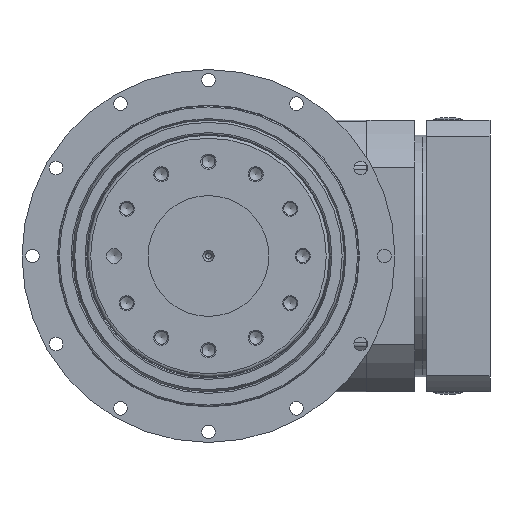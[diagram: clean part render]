
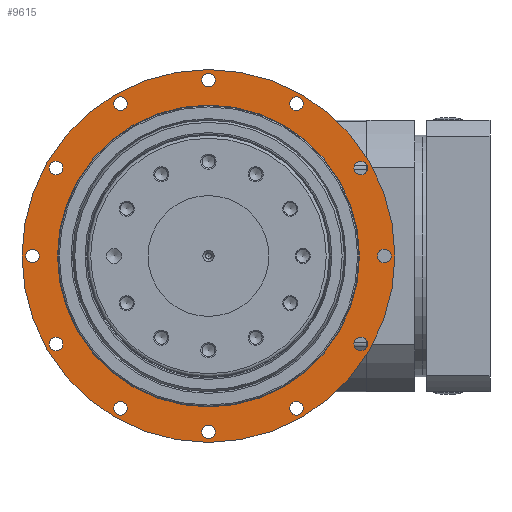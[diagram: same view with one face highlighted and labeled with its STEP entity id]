
A CAD part, left-side view. The second image highlights one B-rep face of the part: STEP entity #9615.
In plain terms, the highlighted planar face has unit normal (-1, 0, 0).
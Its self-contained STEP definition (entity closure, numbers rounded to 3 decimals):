
#245 = AXIS2_PLACEMENT_3D ( 'NONE', #5189, #20973, #22750 ) ;
#371 = VERTEX_POINT ( 'NONE', #9021 ) ;
#479 = CARTESIAN_POINT ( 'NONE',  ( -58., 0., 123.5 ) ) ;
#1023 = ORIENTED_EDGE ( 'NONE', *, *, #7770, .F. ) ;
#1049 = FACE_BOUND ( 'NONE', #13612, .T. ) ;
#1051 = EDGE_LOOP ( 'NONE', ( #10791 ) ) ;
#1076 = AXIS2_PLACEMENT_3D ( 'NONE', #19255, #12554, #17137 ) ;
#1092 = EDGE_LOOP ( 'NONE', ( #12295 ) ) ;
#1203 = PLANE ( 'NONE',  #13372 ) ;
#1274 = EDGE_LOOP ( 'NONE', ( #22015 ) ) ;
#1438 = DIRECTION ( 'NONE',  ( -1., 0., 0. ) ) ;
#1485 = VERTEX_POINT ( 'NONE', #19785 ) ;
#1935 = CARTESIAN_POINT ( 'NONE',  ( -58., 116.5, 0. ) ) ;
#1953 = CARTESIAN_POINT ( 'NONE',  ( -58., -116.5, 0. ) ) ;
#2323 = VERTEX_POINT ( 'NONE', #22870 ) ;
#2392 = DIRECTION ( 'NONE',  ( 0., -1., 0. ) ) ;
#2742 = CIRCLE ( 'NONE', #15731, 4.5 ) ;
#2880 = EDGE_CURVE ( 'NONE', #5698, #5698, #22611, .T. ) ;
#3386 = DIRECTION ( 'NONE',  ( 0., -1., 0. ) ) ;
#3391 = EDGE_CURVE ( 'NONE', #19996, #19996, #16540, .T. ) ;
#3605 = DIRECTION ( 'NONE',  ( 0., -1., 0. ) ) ;
#3839 = DIRECTION ( 'NONE',  ( 0., 0., 1. ) ) ;
#4526 = VERTEX_POINT ( 'NONE', #6008 ) ;
#4543 = VERTEX_POINT ( 'NONE', #479 ) ;
#4879 = EDGE_LOOP ( 'NONE', ( #18683 ) ) ;
#4931 = ORIENTED_EDGE ( 'NONE', *, *, #15027, .T. ) ;
#5000 = CARTESIAN_POINT ( 'NONE',  ( -58., 0., 0. ) ) ;
#5052 = AXIS2_PLACEMENT_3D ( 'NONE', #11062, #16527, #2392 ) ;
#5108 = EDGE_LOOP ( 'NONE', ( #10560 ) ) ;
#5189 = CARTESIAN_POINT ( 'NONE',  ( -58., 58.25, 100.892 ) ) ;
#5326 = ORIENTED_EDGE ( 'NONE', *, *, #7556, .F. ) ;
#5656 = VERTEX_POINT ( 'NONE', #18541 ) ;
#5690 = CIRCLE ( 'NONE', #14752, 123.5 ) ;
#5698 = VERTEX_POINT ( 'NONE', #12090 ) ;
#5804 = FACE_BOUND ( 'NONE', #7240, .T. ) ;
#5886 = CARTESIAN_POINT ( 'NONE',  ( -58., -100.892, 58.25 ) ) ;
#6008 = CARTESIAN_POINT ( 'NONE',  ( -58., -4.5, -116.5 ) ) ;
#6233 = VERTEX_POINT ( 'NONE', #19481 ) ;
#6529 = VERTEX_POINT ( 'NONE', #19404 ) ;
#6667 = CIRCLE ( 'NONE', #16997, 4.5 ) ;
#6736 = ORIENTED_EDGE ( 'NONE', *, *, #2880, .F. ) ;
#7139 = CIRCLE ( 'NONE', #18257, 4.5 ) ;
#7166 = DIRECTION ( 'NONE',  ( 0., -1., 0. ) ) ;
#7240 = EDGE_LOOP ( 'NONE', ( #14067 ) ) ;
#7309 = DIRECTION ( 'NONE',  ( -1., 0., 0. ) ) ;
#7400 = CARTESIAN_POINT ( 'NONE',  ( -58., 100.892, 58.25 ) ) ;
#7482 = FACE_BOUND ( 'NONE', #16304, .T. ) ;
#7556 = EDGE_CURVE ( 'NONE', #2323, #2323, #6667, .T. ) ;
#7725 = DIRECTION ( 'NONE',  ( -1., 0., 0. ) ) ;
#7770 = EDGE_CURVE ( 'NONE', #6529, #6529, #18487, .T. ) ;
#7802 = EDGE_LOOP ( 'NONE', ( #18085 ) ) ;
#8154 = EDGE_LOOP ( 'NONE', ( #5326 ) ) ;
#8172 = EDGE_CURVE ( 'NONE', #371, #371, #9670, .T. ) ;
#8247 = EDGE_CURVE ( 'NONE', #22747, #22747, #19300, .T. ) ;
#8377 = EDGE_CURVE ( 'NONE', #6233, #6233, #22890, .T. ) ;
#8635 = CARTESIAN_POINT ( 'NONE',  ( -58., 58.25, -100.892 ) ) ;
#8820 = FACE_BOUND ( 'NONE', #22781, .T. ) ;
#8972 = DIRECTION ( 'NONE',  ( 0., -1., 0. ) ) ;
#9021 = CARTESIAN_POINT ( 'NONE',  ( -58., -121., 0. ) ) ;
#9046 = DIRECTION ( 'NONE',  ( -1., 0., 0. ) ) ;
#9262 = VERTEX_POINT ( 'NONE', #11077 ) ;
#9322 = CARTESIAN_POINT ( 'NONE',  ( -58., -105.392, 58.25 ) ) ;
#9332 = EDGE_CURVE ( 'NONE', #18909, #18909, #2742, .T. ) ;
#9615 = ADVANCED_FACE ( 'NONE', ( #1049, #14052, #16826, #15162, #5804, #13503, #8820, #12146, #7482, #12404, #17917, #10492, #13249, #19860 ), #1203, .F. ) ;
#9670 = CIRCLE ( 'NONE', #16859, 4.5 ) ;
#10038 = CARTESIAN_POINT ( 'NONE',  ( -58., -58.25, 100.892 ) ) ;
#10492 = FACE_BOUND ( 'NONE', #16871, .T. ) ;
#10560 = ORIENTED_EDGE ( 'NONE', *, *, #22379, .F. ) ;
#10645 = CIRCLE ( 'NONE', #22710, 4.5 ) ;
#10791 = ORIENTED_EDGE ( 'NONE', *, *, #8377, .F. ) ;
#10826 = AXIS2_PLACEMENT_3D ( 'NONE', #18235, #10923, #3839 ) ;
#10923 = DIRECTION ( 'NONE',  ( -1., 0., 0. ) ) ;
#11062 = CARTESIAN_POINT ( 'NONE',  ( -58., 0., 116.5 ) ) ;
#11077 = CARTESIAN_POINT ( 'NONE',  ( -58., 53.75, -100.892 ) ) ;
#11171 = EDGE_CURVE ( 'NONE', #1485, #1485, #17600, .T. ) ;
#11439 = ORIENTED_EDGE ( 'NONE', *, *, #19998, .F. ) ;
#11710 = AXIS2_PLACEMENT_3D ( 'NONE', #10038, #20337, #22350 ) ;
#12090 = CARTESIAN_POINT ( 'NONE',  ( -58., 112., 0. ) ) ;
#12146 = FACE_BOUND ( 'NONE', #19491, .T. ) ;
#12161 = CARTESIAN_POINT ( 'NONE',  ( -58., 0., 100. ) ) ;
#12295 = ORIENTED_EDGE ( 'NONE', *, *, #14994, .F. ) ;
#12303 = AXIS2_PLACEMENT_3D ( 'NONE', #13962, #1438, #3386 ) ;
#12404 = FACE_BOUND ( 'NONE', #1274, .T. ) ;
#12484 = EDGE_CURVE ( 'NONE', #16681, #16681, #7139, .T. ) ;
#12554 = DIRECTION ( 'NONE',  ( -1., 0., 0. ) ) ;
#12564 = DIRECTION ( 'NONE',  ( 0., -1., 0. ) ) ;
#12699 = DIRECTION ( 'NONE',  ( -1., 0., 0. ) ) ;
#13249 = FACE_BOUND ( 'NONE', #4879, .T. ) ;
#13333 = AXIS2_PLACEMENT_3D ( 'NONE', #7400, #12699, #21636 ) ;
#13372 = AXIS2_PLACEMENT_3D ( 'NONE', #17338, #17256, #20801 ) ;
#13503 = FACE_BOUND ( 'NONE', #7802, .T. ) ;
#13612 = EDGE_LOOP ( 'NONE', ( #13728 ) ) ;
#13728 = ORIENTED_EDGE ( 'NONE', *, *, #9332, .F. ) ;
#13962 = CARTESIAN_POINT ( 'NONE',  ( -58., 0., -116.5 ) ) ;
#14015 = DIRECTION ( 'NONE',  ( 0., -1., 0. ) ) ;
#14018 = CARTESIAN_POINT ( 'NONE',  ( -58., 96.392, -58.25 ) ) ;
#14052 = FACE_BOUND ( 'NONE', #1092, .T. ) ;
#14067 = ORIENTED_EDGE ( 'NONE', *, *, #11171, .F. ) ;
#14332 = DIRECTION ( 'NONE',  ( -1., 0., 0. ) ) ;
#14752 = AXIS2_PLACEMENT_3D ( 'NONE', #5000, #15784, #17325 ) ;
#14994 = EDGE_CURVE ( 'NONE', #9262, #9262, #10645, .T. ) ;
#15027 = EDGE_CURVE ( 'NONE', #4543, #4543, #5690, .T. ) ;
#15089 = EDGE_LOOP ( 'NONE', ( #4931 ) ) ;
#15162 = FACE_BOUND ( 'NONE', #8154, .T. ) ;
#15681 = CIRCLE ( 'NONE', #5052, 4.5 ) ;
#15731 = AXIS2_PLACEMENT_3D ( 'NONE', #16035, #9046, #12564 ) ;
#15784 = DIRECTION ( 'NONE',  ( -1., 0., 0. ) ) ;
#16035 = CARTESIAN_POINT ( 'NONE',  ( -58., 100.892, -58.25 ) ) ;
#16304 = EDGE_LOOP ( 'NONE', ( #11439 ) ) ;
#16527 = DIRECTION ( 'NONE',  ( -1., 0., 0. ) ) ;
#16540 = CIRCLE ( 'NONE', #245, 4.5 ) ;
#16681 = VERTEX_POINT ( 'NONE', #9322 ) ;
#16826 = FACE_BOUND ( 'NONE', #5108, .T. ) ;
#16859 = AXIS2_PLACEMENT_3D ( 'NONE', #1953, #14332, #3605 ) ;
#16871 = EDGE_LOOP ( 'NONE', ( #6736 ) ) ;
#16997 = AXIS2_PLACEMENT_3D ( 'NONE', #22744, #17732, #8972 ) ;
#17137 = DIRECTION ( 'NONE',  ( 0., -1., 0. ) ) ;
#17256 = DIRECTION ( 'NONE',  ( 1., 0., 0. ) ) ;
#17325 = DIRECTION ( 'NONE',  ( 0., 0., 1. ) ) ;
#17338 = CARTESIAN_POINT ( 'NONE',  ( -58., 123.5, 0. ) ) ;
#17600 = CIRCLE ( 'NONE', #1076, 4.5 ) ;
#17732 = DIRECTION ( 'NONE',  ( -1., 0., 0. ) ) ;
#17782 = CARTESIAN_POINT ( 'NONE',  ( -58., 53.75, 100.892 ) ) ;
#17917 = FACE_BOUND ( 'NONE', #1051, .T. ) ;
#18085 = ORIENTED_EDGE ( 'NONE', *, *, #8172, .F. ) ;
#18235 = CARTESIAN_POINT ( 'NONE',  ( -58., 0., 0. ) ) ;
#18257 = AXIS2_PLACEMENT_3D ( 'NONE', #5886, #7725, #20176 ) ;
#18283 = ORIENTED_EDGE ( 'NONE', *, *, #12484, .F. ) ;
#18487 = CIRCLE ( 'NONE', #11710, 4.5 ) ;
#18541 = CARTESIAN_POINT ( 'NONE',  ( -58., -4.5, 116.5 ) ) ;
#18657 = CIRCLE ( 'NONE', #12303, 4.5 ) ;
#18683 = ORIENTED_EDGE ( 'NONE', *, *, #8247, .F. ) ;
#18909 = VERTEX_POINT ( 'NONE', #14018 ) ;
#19255 = CARTESIAN_POINT ( 'NONE',  ( -58., -100.892, -58.25 ) ) ;
#19300 = CIRCLE ( 'NONE', #10826, 100. ) ;
#19404 = CARTESIAN_POINT ( 'NONE',  ( -58., -62.75, 100.892 ) ) ;
#19481 = CARTESIAN_POINT ( 'NONE',  ( -58., 96.392, 58.25 ) ) ;
#19491 = EDGE_LOOP ( 'NONE', ( #1023 ) ) ;
#19785 = CARTESIAN_POINT ( 'NONE',  ( -58., -105.392, -58.25 ) ) ;
#19860 = FACE_OUTER_BOUND ( 'NONE', #15089, .T. ) ;
#19996 = VERTEX_POINT ( 'NONE', #17782 ) ;
#19998 = EDGE_CURVE ( 'NONE', #5656, #5656, #15681, .T. ) ;
#20176 = DIRECTION ( 'NONE',  ( 0., -1., 0. ) ) ;
#20337 = DIRECTION ( 'NONE',  ( -1., 0., 0. ) ) ;
#20801 = DIRECTION ( 'NONE',  ( 0., 0., -1. ) ) ;
#20973 = DIRECTION ( 'NONE',  ( -1., 0., 0. ) ) ;
#21636 = DIRECTION ( 'NONE',  ( 0., -1., 0. ) ) ;
#21701 = AXIS2_PLACEMENT_3D ( 'NONE', #1935, #7309, #7166 ) ;
#22015 = ORIENTED_EDGE ( 'NONE', *, *, #3391, .F. ) ;
#22350 = DIRECTION ( 'NONE',  ( 0., -1., 0. ) ) ;
#22379 = EDGE_CURVE ( 'NONE', #4526, #4526, #18657, .T. ) ;
#22611 = CIRCLE ( 'NONE', #21701, 4.5 ) ;
#22710 = AXIS2_PLACEMENT_3D ( 'NONE', #8635, #22713, #14015 ) ;
#22713 = DIRECTION ( 'NONE',  ( -1., 0., 0. ) ) ;
#22744 = CARTESIAN_POINT ( 'NONE',  ( -58., -58.25, -100.892 ) ) ;
#22747 = VERTEX_POINT ( 'NONE', #12161 ) ;
#22750 = DIRECTION ( 'NONE',  ( 0., -1., 0. ) ) ;
#22781 = EDGE_LOOP ( 'NONE', ( #18283 ) ) ;
#22870 = CARTESIAN_POINT ( 'NONE',  ( -58., -62.75, -100.892 ) ) ;
#22890 = CIRCLE ( 'NONE', #13333, 4.5 ) ;
